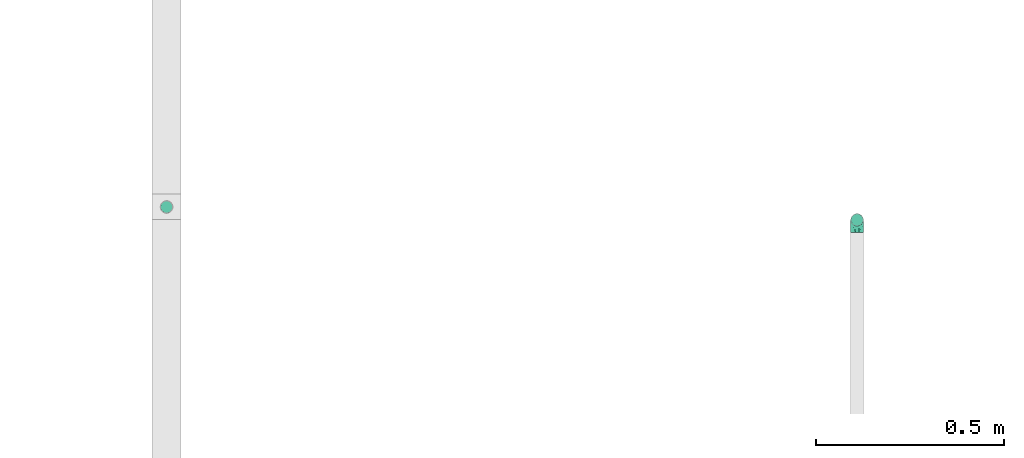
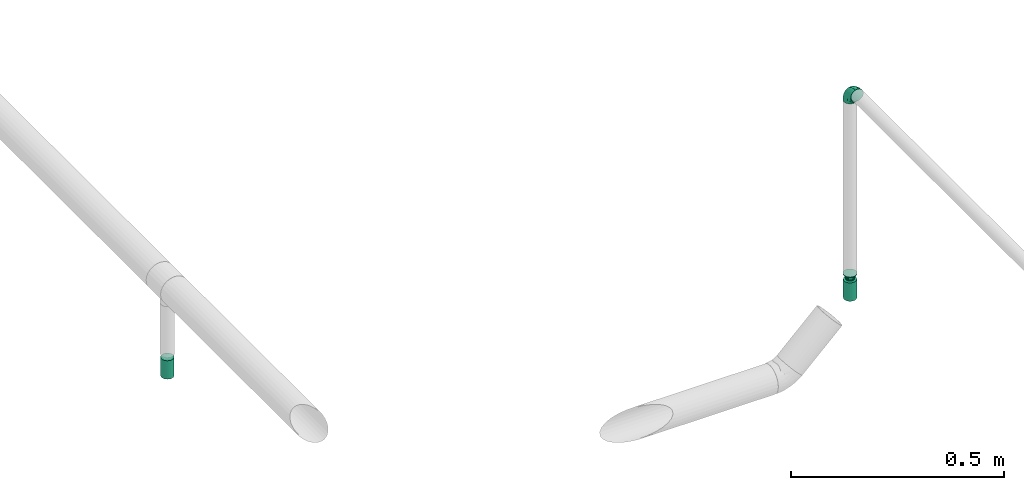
# One storey, part 43 of 95: 2 flow fittings, 2 flow terminals.
"""IFC2X3 building model written with IfcOpenShell, lengths in millimetres."""

from ifc_helpers import new_model, entity, si_unit, converted_unit, derived_unit, direction, frame, origin_with_axes, place, context, subcontext, project, spatial, open_shell, surface_model, source, transform, mapped, type_object, element, save


model = new_model("IFC2X3")

# Units and contexts
model_context = context("Model", 3, precision=0.01, world=frame((0.0, 4.29681676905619e-09, 0.0)), true_north=direction((4.01073788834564e-13, 1.0)))
plan_context = context("Plan", 3, precision=0.01, world=frame((0.0, 4.29681676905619e-09, 0.0)), true_north=direction((4.01073788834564e-13, 1.0)))
body_context = subcontext(model_context, "Body", "Model", "MODEL_VIEW")
ifc_project = project(units=[converted_unit("PLANEANGLEUNIT", "DEGREE", entity("IfcPositiveLengthMeasure", 0.0174532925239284), si_unit("PLANEANGLEUNIT", "RADIAN"), dimensions=[0, 0, 0, 0, 0, 0, 0]), si_unit("AREAUNIT", "SQUARE_METRE"), si_unit("LENGTHUNIT", "METRE", prefix="MILLI"), si_unit("MASSUNIT", "GRAM", prefix="KILO"), si_unit("POWERUNIT", "WATT"), si_unit("PRESSUREUNIT", "PASCAL"), si_unit("FORCEUNIT", "NEWTON", prefix="KILO"), si_unit("ELECTRICVOLTAGEUNIT", "VOLT"), si_unit("ELECTRICCURRENTUNIT", "AMPERE"), si_unit("THERMODYNAMICTEMPERATUREUNIT", "DEGREE_CELSIUS"), si_unit("TIMEUNIT", "SECOND"), si_unit("VOLUMEUNIT", "CUBIC_METRE"), derived_unit("LINEARVELOCITYUNIT", [(si_unit("LENGTHUNIT", "METRE"), 1), (si_unit("TIMEUNIT", "SECOND"), -1)]), derived_unit("VOLUMETRICFLOWRATEUNIT", [(si_unit("VOLUMEUNIT", "CUBIC_METRE"), 1), (si_unit("TIMEUNIT", "SECOND"), -1)]), derived_unit("THERMALTRANSMITTANCEUNIT", [(si_unit("POWERUNIT", "WATT"), 1), (si_unit("THERMODYNAMICTEMPERATUREUNIT", "KELVIN"), -1), (si_unit("AREAUNIT", "SQUARE_METRE"), -1)]), derived_unit("SOUNDPRESSUREUNIT", [(si_unit("PRESSUREUNIT", "PASCAL"), 1)])], contexts=[model_context, plan_context])

# Site, building, storey
site_placement = place(None, frame((0.0, -4.29681676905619e-09, 0.0), z_axis=(0.0, 0.0, 1.0), x_axis=(1.0, 0.0, 0.0)))
site = spatial("IfcSite", under=ifc_project, at=site_placement, CompositionType="ELEMENT")
building_placement = place(site_placement, frame((0.0, 4.29681676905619e-09, 0.0), z_axis=(0.0, 0.0, 1.0), x_axis=(1.0, 0.0, 0.0)))
building = spatial("IfcBuilding", under=site, at=building_placement, Name="mc-building", CompositionType="ELEMENT")
storey_placement = place(building_placement, frame((0.0, 0.0, 210900.0), z_axis=(0.0, 0.0, 1.0), x_axis=(1.0, 0.0, 0.0)))
storey = spatial("IfcBuildingStorey", under=building, at=storey_placement, Name="Nivå F", CompositionType="ELEMENT", Elevation=210900.0)

# Flow fittings
pipe_fitting_type_1 = type_object("IfcPipeFittingType", Name="magi_pipe_fe_reducer_centric_short_NOR", PredefinedType="TRANSITION")
shared_shape_1 = source(origin_with_axes(), body_context, "Body", "SurfaceModel", [
    surface_model("IfcShellBasedSurfaceModel", [(-2.0, -7.56604, -7.56604), (-2.0, -10.33541, -2.76936), (-2.0, -5.35, -9.26647), (-2.0, 5.35, -9.26647), (-2.0, 10.33541, -2.76936), (-2.0, 7.56604, -7.56604), (12.4, 11.9501, 11.9501), (12.4, 0.0, 16.9), (12.4, 11.9501, -11.9501), (12.4, 16.9, 0.0), (0.0, -10.7, 0.0), (0.0, -5.35, 9.26647), (0.0, -5.35, -9.26647), (0.0, 10.7, 0.0), (12.4, 15.66253, -2.98753), (12.4, 8.96258, -13.18758), (0.0, 6.6875, -6.94985), (12.4, -15.66253, -2.98753), (12.4, -16.9, 0.0), (12.4, 5.97505, -14.42505), (0.0, 5.35, -9.26647), (12.4, 14.42505, -5.97505), (0.0, 8.025, -4.63324), (0.0, 9.3625, -2.31662), (0.0, -9.3625, -2.31662), (0.0, -8.025, -4.63324), (12.4, -14.42505, -5.97505), (12.4, 13.18758, -8.96258), (12.4, -13.18758, -8.96258), (12.4, -11.9501, -11.9501), (0.0, -6.6875, -6.94985), (12.4, -8.96258, -13.18758), (12.4, -5.97505, -14.42505), (12.4, -15.66253, 2.98753), (12.4, -8.96258, 13.18758), (0.0, -6.6875, 6.94985), (12.4, -11.9501, 11.9501), (12.4, 15.66253, 2.98753), (12.4, -5.97505, 14.42505), (12.4, -14.42505, 5.97505), (0.0, -8.025, 4.63324), (0.0, -9.3625, 2.31662), (0.0, 9.3625, 2.31662), (0.0, 8.025, 4.63324), (12.4, 14.42505, 5.97505), (12.4, -13.18758, 8.96258), (12.4, 13.18758, 8.96258), (0.0, 6.6875, 6.94985), (12.4, 8.96258, 13.18758), (0.0, 5.35, 9.26647), (12.4, 5.97505, 14.42505), (14.4, 4.37404, -16.32415), (14.4, 8.45, -14.63583), (14.4, 11.9501, -11.9501), (14.4, -8.45, -14.63583), (14.4, 16.32415, -4.37404), (14.4, 16.32415, 4.37404), (14.4, 14.63583, -8.45), (14.4, 0.0, -16.9), (14.4, -4.37404, -16.32415), (14.4, -11.9501, -11.9501), (14.4, -16.32415, -4.37404), (14.4, -14.63583, -8.45), (14.4, -16.32415, 4.37404), (14.4, 16.9, 0.0), (14.4, 14.63583, 8.45), (14.4, 11.9501, 11.9501), (14.4, 4.37404, 16.32415), (14.4, 8.45, 14.63583), (14.4, 0.0, 16.9), (14.4, -14.63583, 8.45), (14.4, -16.9, 0.0), (14.4, -8.45, 14.63583), (14.4, -11.9501, 11.9501), (14.4, -4.37404, 16.32415), (12.4, 4.37404, 16.32415), (12.4, -14.63583, 8.45), (12.4, 16.32415, 4.37404), (12.4, 8.45, 14.63583), (12.4, 14.63583, 8.45), (12.4, -8.45, 14.63583), (12.4, -4.37404, 16.32415), (12.4, -16.32415, 4.37404), (12.4, -16.32415, -4.37404), (12.4, -8.45, -14.63583), (12.4, 16.32415, -4.37404), (12.4, 14.63583, -8.45), (12.4, 8.45, -14.63583), (12.4, 4.37404, -16.32415), (12.4, 0.0, -16.9), (12.4, -14.63583, -8.45), (12.4, -4.37404, -16.32415), (-2.0, 2.76936, 10.33541), (-2.0, 0.0, 10.7), (-2.0, 5.35, 9.26647), (-2.0, 7.56604, 7.56604), (-2.0, 9.26647, 5.35), (-2.0, 10.33541, 2.76936), (-2.0, -10.33541, 2.76936), (-2.0, -2.76936, 10.33541), (-2.0, -7.56604, 7.56604), (-2.0, -5.35, 9.26647), (-2.0, -9.26647, 5.35), (-2.0, -10.7, 0.0), (-2.0, 9.26647, -5.35), (-2.0, 2.76936, -10.33541), (-2.0, -9.26647, -5.35), (-2.0, 0.0, -10.7), (-2.0, -2.76936, -10.33541), (-2.0, 10.7, 0.0), (0.0, 0.0, -10.7), (0.0, 2.76936, -10.33541), (0.0, 10.33541, -2.76936), (0.0, 7.56604, -7.56604), (0.0, -10.33541, -2.76936), (0.0, 9.26647, -5.35), (0.0, 0.0, 10.7), (0.0, -2.76936, -10.33541), (0.0, -7.56604, -7.56604), (0.0, -9.26647, -5.35), (0.0, 10.33541, 2.76936), (0.0, 9.26647, 5.35), (0.0, 7.56604, 7.56604), (0.0, 2.76936, 10.33541), (0.0, -7.56604, 7.56604), (0.0, -10.33541, 2.76936), (0.0, -9.26647, 5.35), (0.0, -2.76936, 10.33541), (0.0, 2.675, -9.26647), (0.0, -2.675, -9.26647), (12.4, 2.98753, -15.66253), (0.0, 0.0, -9.26647), (12.4, -2.98753, -15.66253), (0.0, -2.675, 9.26647), (0.0, 2.675, 9.26647), (12.4, -2.98753, 15.66253), (0.0, 0.0, 9.26647), (12.4, 2.98753, 15.66253)], [open_shell([[[0, 1, 2]], [[3, 4, 5]], [[6, 7, 8]], [[8, 9, 6]], [[10, 11, 12]], [[13, 9, 14]], [[15, 16, 8]], [[17, 18, 10]], [[15, 19, 20]], [[21, 22, 23]], [[24, 25, 26]], [[22, 21, 27]], [[28, 26, 25]], [[29, 30, 31]], [[12, 32, 31]], [[10, 18, 33]], [[34, 35, 36]], [[37, 9, 13]], [[34, 38, 11]], [[39, 40, 41]], [[42, 43, 44]], [[40, 39, 45]], [[46, 44, 43]], [[6, 47, 48]], [[49, 50, 48]], [[51, 52, 53]], [[54, 51, 53]], [[53, 55, 56]], [[55, 53, 57]], [[53, 56, 54]], [[58, 54, 59]], [[58, 51, 54]], [[60, 61, 62]], [[61, 60, 54]], [[54, 63, 61]], [[56, 55, 64]], [[56, 65, 66]], [[56, 66, 67]], [[67, 63, 54]], [[67, 66, 68]], [[63, 67, 69]], [[69, 70, 63]], [[71, 61, 63]], [[70, 72, 73]], [[70, 69, 72]], [[72, 69, 74]], [[54, 56, 67]], [[75, 76, 7]], [[77, 75, 78]], [[6, 79, 77]], [[6, 77, 78]], [[76, 75, 77]], [[80, 76, 36]], [[80, 81, 7]], [[7, 76, 80]], [[82, 76, 77]], [[82, 83, 18]], [[82, 77, 84]], [[77, 85, 8]], [[8, 85, 86]], [[8, 87, 88]], [[84, 77, 8]], [[88, 89, 8]], [[83, 29, 90]], [[29, 83, 84]], [[84, 89, 91]], [[83, 82, 84]], [[8, 89, 84]], [[85, 77, 9]], [[83, 61, 18]], [[90, 62, 83]], [[54, 29, 84]], [[90, 29, 60]], [[59, 84, 91]], [[83, 62, 61]], [[61, 71, 18]], [[59, 54, 84]], [[60, 29, 54]], [[60, 62, 90]], [[58, 59, 91]], [[91, 89, 58]], [[88, 51, 89]], [[87, 52, 88]], [[57, 8, 86]], [[87, 8, 53]], [[55, 86, 85]], [[87, 53, 52]], [[52, 51, 88]], [[64, 55, 85]], [[57, 86, 55]], [[57, 53, 8]], [[9, 64, 85]], [[89, 51, 58]], [[77, 56, 9]], [[79, 65, 77]], [[68, 6, 78]], [[79, 6, 66]], [[67, 78, 75]], [[77, 65, 56]], [[56, 64, 9]], [[67, 68, 78]], [[66, 6, 68]], [[66, 65, 79]], [[69, 67, 75]], [[75, 7, 69]], [[81, 74, 7]], [[80, 72, 81]], [[70, 36, 76]], [[80, 36, 73]], [[63, 76, 82]], [[80, 73, 72]], [[72, 74, 81]], [[71, 63, 82]], [[70, 76, 63]], [[70, 73, 36]], [[18, 71, 82]], [[7, 74, 69]], [[92, 1, 93]], [[94, 1, 92]], [[95, 96, 97]], [[95, 97, 94]], [[98, 93, 1]], [[99, 100, 101]], [[99, 93, 100]], [[100, 98, 102]], [[93, 98, 100]], [[98, 1, 103]], [[94, 97, 1]], [[1, 97, 4]], [[5, 4, 104]], [[4, 3, 1]], [[105, 1, 3]], [[1, 0, 106]], [[2, 107, 108]], [[2, 1, 105]], [[105, 107, 2]], [[4, 97, 109]], [[20, 110, 111]], [[112, 20, 113]], [[114, 20, 112]], [[112, 113, 115]], [[116, 114, 112]], [[110, 12, 117]], [[110, 20, 12]], [[118, 114, 119]], [[114, 118, 12]], [[20, 114, 12]], [[112, 13, 120]], [[120, 121, 122]], [[120, 122, 123]], [[116, 112, 123]], [[123, 122, 49]], [[116, 124, 114]], [[125, 124, 126]], [[10, 114, 125]], [[124, 127, 11]], [[125, 114, 124]], [[127, 124, 116]], [[123, 112, 120]], [[1, 114, 103]], [[106, 119, 1]], [[12, 0, 2]], [[106, 0, 118]], [[117, 2, 108]], [[1, 119, 114]], [[114, 10, 103]], [[117, 12, 2]], [[118, 0, 12]], [[118, 119, 106]], [[110, 117, 108]], [[108, 107, 110]], [[105, 111, 107]], [[3, 20, 105]], [[115, 5, 104]], [[3, 5, 113]], [[112, 104, 4]], [[3, 113, 20]], [[20, 111, 105]], [[13, 112, 4]], [[115, 104, 112]], [[115, 113, 5]], [[109, 13, 4]], [[107, 111, 110]], [[97, 120, 109]], [[96, 121, 97]], [[49, 95, 94]], [[96, 95, 122]], [[123, 94, 92]], [[97, 121, 120]], [[120, 13, 109]], [[123, 49, 94]], [[122, 95, 49]], [[122, 121, 96]], [[116, 123, 92]], [[92, 93, 116]], [[99, 127, 93]], [[101, 11, 99]], [[126, 100, 102]], [[101, 100, 124]], [[125, 102, 98]], [[101, 124, 11]], [[11, 127, 99]], [[10, 125, 98]], [[126, 102, 125]], [[126, 124, 100]], [[103, 10, 98]], [[93, 127, 116]], [[18, 7, 36]], [[18, 29, 8]], [[89, 8, 29]], [[18, 8, 7]], [[13, 11, 49]], [[13, 20, 12]], [[13, 12, 11]], [[24, 26, 17]], [[10, 24, 17]], [[16, 15, 20]], [[30, 12, 31]], [[23, 14, 21]], [[19, 128, 20]], [[27, 8, 16]], [[32, 12, 129]], [[30, 28, 25]], [[130, 131, 128]], [[129, 132, 32]], [[16, 22, 27]], [[13, 14, 23]], [[128, 19, 130]], [[130, 89, 131]], [[131, 132, 129]], [[89, 132, 131]], [[28, 30, 29]], [[42, 44, 37]], [[13, 42, 37]], [[35, 34, 11]], [[47, 49, 48]], [[41, 33, 39]], [[38, 133, 11]], [[45, 36, 35]], [[50, 49, 134]], [[47, 46, 43]], [[135, 136, 133]], [[134, 137, 50]], [[35, 40, 45]], [[10, 33, 41]], [[133, 38, 135]], [[135, 7, 136]], [[136, 137, 134]], [[7, 137, 136]], [[46, 47, 6]]])]),
])
flow_fitting_1_placement = place(storey_placement, frame((522698.68266, 447207.85, 3762.948), z_axis=(-1.0, 0.0, 0.0), x_axis=(0.0, 0.0, 1.0)))
element("IfcFlowFitting", 1, at=flow_fitting_1_placement, inside=storey, type_object=pipe_fitting_type_1, Name="magi_pipe_fe_reducer_centric_short_NOR", context=body_context, shape_type="MappedRepresentation", body=[
    mapped(shared_shape_1, transform((0.0, 0.0, 0.0), scale=1.0)),
])
pipe_fitting_type_2 = type_object("IfcPipeFittingType", Name="magi_pipe_fe_elbow_short_001", PredefinedType="BEND")
shared_shape_2 = source(origin_with_axes(), body_context, "Body", "SurfaceModel", [
    surface_model("IfcShellBasedSurfaceModel", [(-33.8, 8.45, -14.63583), (-33.8, 4.37404, -16.32415), (-33.8, 11.9501, -11.9501), (-33.8, -11.9501, -11.9501), (-33.8, -14.63583, -8.45), (-33.8, -8.45, -14.63583), (-33.8, 0.0, -16.9), (-33.8, -4.37404, -16.32415), (-33.8, -4.37404, 16.32415), (-33.8, 0.0, 16.9), (-33.8, -8.45, 14.63583), (-33.8, 16.32415, -4.37404), (-33.8, 14.63583, -8.45), (-33.8, -16.32415, -4.37404), (-33.8, -16.9, 0.0), (-33.8, -16.32415, 4.37404), (-33.8, 11.9501, 11.9501), (-33.8, 14.63583, 8.45), (-33.8, 16.32415, 4.37404), (-33.8, 4.37404, 16.32415), (-33.8, 8.45, 14.63583), (-33.8, -14.63583, 8.45), (-33.8, -11.9501, 11.9501), (-33.8, 16.9, 0.0), (-11.9501, 33.8, -11.9501), (0.0, 33.8, -16.9), (-4.37404, 33.8, -16.32415), (-8.45, 33.8, -14.63583), (-14.63583, 33.8, -8.45), (-16.32415, 33.8, -4.37404), (14.63583, 33.8, -8.45), (8.45, 33.8, 14.63583), (16.32415, 33.8, -4.37404), (8.45, 33.8, -14.63583), (11.9501, 33.8, -11.9501), (4.37404, 33.8, -16.32415), (16.32415, 33.8, 4.37404), (16.9, 33.8, 0.0), (-11.9501, 33.8, 11.9501), (-16.32415, 33.8, 4.37404), (-14.63583, 33.8, 8.45), (-8.45, 33.8, 14.63583), (-4.37404, 33.8, 16.32415), (11.9501, 33.8, 11.9501), (14.63583, 33.8, 8.45), (0.0, 33.8, 16.9), (4.37404, 33.8, 16.32415), (-16.9, 33.8, 0.0), (-24.79389, -13.12945, 9.48721), (-22.19287, -9.75018, 12.59315), (-24.09897, -14.97035, 0.0), (-14.93934, -10.76256, 8.5297), (-22.46095, -14.75051, 5.27077), (14.75051, 22.46094, 5.27077), (11.9251, 13.23888, 4.33236), (13.04069, 14.39795, 0.0), (7.71387, 13.68847, 11.55891), (9.75018, 22.19287, 12.59315), (4.10169, 13.0571, 14.04018), (-24.84007, -6.39063, 15.2048), (-25.81779, -2.23879, 16.61097), (-23.66549, 2.59054, 16.87119), (-26.50418, 14.06512, 11.08152), (-24.21253, 17.66365, 7.72657), (-29.58514, 15.86957, 7.00283), (-6.17382, -7.5455, 0.0), (-13.23888, -11.9251, 4.33236), (-14.39795, -13.04069, 0.0), (-17.81434, 18.87373, 11.97104), (-6.30846, 29.15138, 15.82987), (-2.31622, 25.28002, 16.85849), (-29.23923, 10.23435, 13.77053), (-1.45439, -2.85688, 7.61475), (-0.28326, 0.34872, 10.09509), (-5.74484, -4.04709, 10.4122), (-4.41137, 11.31918, 16.59407), (-8.39727, 3.10034, 15.7812), (-1.72649, 9.1306, 15.53089), (-17.39909, 24.75344, 7.64977), (-26.19233, 20.0512, 0.0), (-28.14518, 17.29657, 4.25857), (-26.05147, 6.6281, 15.96447), (-5.87354, 16.61944, 16.86968), (-12.51807, 12.51807, 16.48937), (-10.06312, 7.38516, 16.81295), (-3.01882, 3.01882, 13.81718), (-13.0571, -4.10169, 14.04018), (-16.82553, -0.15166, 16.38038), (10.76256, 14.93934, 8.5297), (13.12945, 24.79389, 9.48721), (6.39063, 24.84007, 15.2048), (2.23879, 25.81779, 16.61097), (-13.68847, -7.71387, 11.55891), (14.97035, 24.09897, 0.0), (-7.30894, 22.89991, 16.09489), (-10.67958, 26.17414, 14.008), (-12.78295, 18.26924, 15.06066), (-13.88562, 22.45231, 12.93244), (-18.04944, 15.16501, 14.04434), (-23.11658, 20.08178, 4.02986), (-21.84989, 21.84989, 0.0), (-18.55817, 25.48277, 3.93065), (-13.95142, 26.94732, 11.03289), (-18.57098, 7.23906, 16.59756), (-16.58335, 4.14122, 16.89279), (-17.96666, 11.46709, 15.63151), (-9.84453, 17.54304, 16.18938), (0.15166, 16.82553, 16.38038), (-23.27207, 11.47201, 14.23154), (3.84842, 5.86994, 10.70473), (-8.0212, -7.54413, 7.93275), (1.00345, -2.19508, 4.57414), (5.13203, 3.01004, 5.90201), (5.24161, 1.7543, 2.53265), (8.70457, 7.04947, 3.99182), (-20.0512, 26.19233, 0.0), (8.4852, 8.76699, 7.09296), (-4.55488, -6.72064, 4.90681), (2.05031, -2.05031, 0.0), (7.5455, 6.17382, 0.0), (-26.75399, 2.1369, -16.845), (-14.61995, 24.73803, -11.27736), (-28.45274, -13.45335, -9.81895), (-26.00469, 6.63555, -15.96645), (-23.06726, 20.04573, -4.26202), (-13.80647, -4.26506, -14.17873), (-14.67501, -0.21081, -16.07388), (-6.7902, -0.2828, -13.8478), (-24.53586, 11.08096, -14.13417), (-26.72048, 14.00837, -11.05776), (10.0967, 24.44989, -12.75976), (5.83237, 21.40218, -15.03047), (6.66249, 28.54238, -15.38093), (-20.38182, 15.48705, -12.74596), (12.53268, 21.23441, -9.15363), (12.54494, 15.67504, -5.54878), (9.7522, 12.89279, -8.66343), (-15.65186, 19.64213, -13.01327), (-12.03528, 20.66498, -14.67665), (-15.61907, 15.61906, -14.83879), (-25.56551, -15.26206, 0.0), (-24.65452, -15.12934, -5.50955), (13.45335, 28.45274, -9.81895), (15.12934, 24.65452, -5.50955), (-7.35442, -8.31014, -5.65563), (-15.67504, -12.54494, -5.54878), (-24.44989, -10.0967, -12.75976), (0.16522, 0.41303, -9.71728), (-5.70658, -5.33066, -8.89288), (-5.13869, -2.37198, -11.53565), (-21.23441, -12.53268, -9.15363), (0.71146, 7.93863, -14.09382), (0.21081, 14.67501, -16.07388), (3.49291, 14.42772, -14.76381), (-24.89911, -2.13088, -16.591), (-28.54238, -6.66249, -15.38093), (-18.44386, -7.71663, -13.26957), (2.13088, 24.89911, -16.591), (-28.64342, 17.44413, -2.89318), (1.70017, -1.28722, -5.09504), (-16.57067, 26.81947, -7.36596), (-17.69055, 27.4263, -3.76405), (-12.89279, -9.7522, -8.66343), (-5.96611, 5.96611, -15.95814), (-20.53709, 20.09345, -8.28985), (-2.1369, 26.75399, -16.845), (-6.89872, 24.58781, -16.02578), (-10.60739, 26.53157, -13.98044), (-21.40218, -5.83237, -15.03047), (2.93192, 5.89627, -11.55917), (6.89393, 12.61842, -11.82233), (5.58056, 5.95325, -8.79455), (-3.99512, 18.61798, -16.89635), (8.31014, 7.35442, -5.65563), (-9.1383, 9.86148, -16.89041), (-9.99983, 16.02119, -16.39699), (-16.68576, 9.78031, -16.34199), (-27.01915, 16.61158, -7.12979), (15.26206, 25.56551, 0.0), (-18.61798, 3.99512, -16.89635), (-19.37495, 27.82495, 0.0), (-12.61842, -6.89393, -11.82233), (-18.84705, 19.14018, -10.96545)], [open_shell([[[0, 1, 2]], [[3, 4, 5]], [[6, 7, 5]], [[8, 9, 10]], [[1, 6, 2]], [[11, 12, 2]], [[4, 2, 6]], [[2, 13, 10]], [[5, 4, 6]], [[2, 4, 13]], [[14, 15, 13]], [[11, 2, 16]], [[11, 17, 18]], [[11, 16, 17]], [[19, 20, 16]], [[16, 2, 10]], [[19, 16, 10]], [[21, 22, 15]], [[22, 13, 15]], [[22, 10, 13]], [[10, 9, 19]], [[11, 18, 23]], [[24, 25, 26]], [[24, 26, 27]], [[24, 28, 29]], [[25, 24, 30]], [[31, 32, 24]], [[33, 30, 34]], [[33, 35, 25]], [[25, 30, 33]], [[32, 30, 24]], [[32, 36, 37]], [[38, 24, 29]], [[39, 40, 29]], [[40, 38, 29]], [[38, 41, 42]], [[38, 31, 24]], [[31, 38, 42]], [[36, 43, 44]], [[36, 32, 43]], [[31, 45, 46]], [[32, 31, 43]], [[42, 45, 31]], [[39, 29, 47]], [[22, 48, 49]], [[15, 14, 50]], [[51, 48, 52]], [[53, 54, 55]], [[48, 22, 21]], [[15, 52, 21]], [[56, 57, 58]], [[49, 10, 22]], [[49, 59, 10]], [[9, 60, 61]], [[62, 63, 64]], [[65, 66, 67]], [[57, 43, 31]], [[62, 68, 63]], [[42, 69, 70]], [[20, 71, 16]], [[8, 60, 9]], [[72, 73, 74]], [[75, 76, 77]], [[16, 62, 17]], [[40, 39, 78]], [[79, 23, 80]], [[64, 18, 17]], [[9, 61, 19]], [[19, 81, 20]], [[82, 83, 84]], [[74, 85, 86]], [[59, 86, 87]], [[88, 89, 57]], [[90, 31, 46]], [[44, 53, 36]], [[46, 45, 91]], [[54, 53, 88]], [[44, 89, 53]], [[92, 86, 49]], [[89, 44, 43]], [[10, 59, 8]], [[53, 55, 93]], [[93, 36, 53]], [[66, 52, 67]], [[94, 82, 70]], [[95, 96, 94]], [[97, 98, 96]], [[79, 99, 100]], [[41, 38, 95]], [[101, 100, 99]], [[68, 78, 63]], [[42, 41, 69]], [[23, 18, 80]], [[95, 94, 69]], [[78, 101, 99]], [[38, 102, 95]], [[70, 45, 42]], [[97, 95, 102]], [[15, 50, 52]], [[90, 57, 31]], [[57, 90, 58]], [[81, 19, 61]], [[103, 104, 84]], [[105, 81, 103]], [[38, 40, 102]], [[106, 96, 83]], [[94, 106, 82]], [[91, 70, 107]], [[71, 62, 16]], [[62, 108, 98]], [[86, 59, 49]], [[67, 52, 50]], [[60, 59, 87]], [[92, 49, 51]], [[86, 85, 76]], [[91, 90, 46]], [[37, 36, 93]], [[107, 77, 58]], [[107, 58, 90]], [[58, 85, 109]], [[110, 74, 92]], [[72, 74, 110]], [[66, 51, 52]], [[72, 111, 112]], [[113, 114, 112]], [[56, 88, 57]], [[52, 48, 21]], [[49, 48, 51]], [[57, 89, 43]], [[53, 89, 88]], [[103, 81, 61]], [[71, 81, 108]], [[18, 64, 80]], [[63, 78, 99]], [[47, 115, 101]], [[101, 115, 100]], [[40, 78, 102]], [[68, 102, 78]], [[97, 96, 95]], [[105, 98, 108]], [[103, 84, 83]], [[107, 70, 82]], [[76, 84, 87]], [[82, 84, 75]], [[70, 91, 45]], [[90, 91, 107]], [[59, 60, 8]], [[61, 60, 87]], [[73, 85, 74]], [[109, 112, 116]], [[103, 61, 104]], [[105, 103, 83]], [[96, 105, 83]], [[81, 105, 108]], [[96, 98, 105]], [[62, 98, 68]], [[61, 87, 104]], [[87, 84, 104]], [[86, 76, 87]], [[77, 76, 85]], [[58, 77, 85]], [[75, 77, 107]], [[82, 75, 107]], [[76, 75, 84]], [[81, 71, 20]], [[62, 71, 108]], [[95, 69, 41]], [[70, 69, 94]], [[62, 64, 17]], [[80, 63, 99]], [[63, 80, 64]], [[80, 99, 79]], [[66, 65, 117]], [[110, 66, 117]], [[112, 114, 116]], [[118, 117, 65]], [[110, 92, 51]], [[112, 111, 113]], [[119, 55, 54]], [[74, 86, 92]], [[58, 109, 56]], [[116, 56, 109]], [[66, 110, 51]], [[72, 110, 117]], [[111, 72, 117]], [[73, 112, 109]], [[117, 118, 111]], [[113, 111, 118]], [[118, 119, 113]], [[114, 119, 54]], [[119, 114, 113]], [[116, 54, 88]], [[54, 116, 114]], [[116, 88, 56]], [[112, 73, 72]], [[85, 73, 109]], [[78, 39, 101]], [[47, 101, 39]], [[102, 68, 97]], [[97, 68, 98]], [[82, 106, 83]], [[94, 96, 106]], [[1, 120, 6]], [[28, 24, 121]], [[3, 122, 4]], [[0, 123, 1]], [[100, 124, 79]], [[125, 126, 127]], [[128, 2, 129]], [[130, 131, 132]], [[128, 129, 133]], [[134, 135, 136]], [[137, 138, 139]], [[128, 0, 2]], [[67, 140, 141]], [[134, 142, 143]], [[141, 13, 4]], [[144, 65, 145]], [[146, 3, 5]], [[147, 148, 149]], [[145, 141, 150]], [[151, 152, 153]], [[154, 7, 6]], [[5, 155, 146]], [[150, 146, 156]], [[155, 5, 7]], [[143, 135, 134]], [[35, 157, 25]], [[23, 79, 158]], [[148, 159, 144]], [[160, 161, 29]], [[145, 162, 144]], [[163, 152, 151]], [[29, 28, 160]], [[121, 164, 160]], [[33, 34, 130]], [[25, 165, 26]], [[26, 165, 166]], [[142, 34, 30]], [[24, 27, 167]], [[124, 161, 164]], [[157, 35, 132]], [[155, 154, 168]], [[123, 0, 128]], [[169, 170, 171]], [[172, 157, 152]], [[26, 166, 27]], [[132, 35, 33]], [[142, 130, 34]], [[168, 154, 126]], [[136, 135, 173]], [[133, 137, 139]], [[2, 12, 129]], [[170, 131, 130]], [[30, 32, 143]], [[172, 174, 175]], [[176, 123, 128]], [[158, 177, 11]], [[135, 55, 119]], [[167, 27, 166]], [[175, 166, 172]], [[137, 167, 138]], [[122, 141, 4]], [[140, 14, 13]], [[32, 37, 178]], [[170, 130, 134]], [[152, 157, 131]], [[165, 157, 172]], [[153, 170, 151]], [[152, 163, 174]], [[168, 125, 156]], [[122, 146, 150]], [[120, 154, 6]], [[179, 174, 126]], [[179, 126, 154]], [[126, 163, 127]], [[162, 145, 150]], [[140, 13, 141]], [[32, 178, 143]], [[55, 143, 178]], [[177, 129, 12]], [[128, 133, 139]], [[176, 128, 139]], [[120, 123, 179]], [[121, 160, 28]], [[161, 100, 180]], [[166, 175, 138]], [[121, 24, 167]], [[161, 47, 29]], [[79, 124, 158]], [[124, 164, 177]], [[161, 124, 100]], [[136, 171, 170]], [[127, 163, 151]], [[147, 171, 159]], [[148, 144, 162]], [[127, 151, 169]], [[127, 181, 125]], [[129, 177, 164]], [[12, 11, 177]], [[159, 65, 144]], [[67, 141, 145]], [[143, 55, 135]], [[135, 119, 173]], [[123, 120, 1]], [[154, 120, 179]], [[157, 165, 25]], [[166, 165, 172]], [[172, 152, 174]], [[176, 139, 175]], [[126, 174, 163]], [[176, 174, 179]], [[174, 176, 175]], [[123, 176, 179]], [[150, 181, 162]], [[127, 149, 181]], [[181, 148, 162]], [[159, 148, 147]], [[171, 136, 173]], [[170, 134, 136]], [[159, 171, 173]], [[171, 147, 169]], [[169, 147, 149]], [[151, 170, 169]], [[164, 182, 129]], [[182, 121, 137]], [[181, 149, 148]], [[169, 149, 127]], [[182, 137, 133]], [[167, 137, 121]], [[166, 138, 167]], [[175, 139, 138]], [[129, 182, 133]], [[121, 182, 164]], [[161, 160, 164]], [[47, 161, 180]], [[177, 158, 124]], [[23, 158, 11]], [[130, 132, 33]], [[157, 132, 131]], [[143, 142, 30]], [[130, 142, 134]], [[154, 155, 7]], [[146, 155, 168]], [[146, 122, 3]], [[141, 122, 150]], [[152, 131, 153]], [[159, 119, 118]], [[67, 145, 65]], [[170, 153, 131]], [[119, 159, 173]], [[159, 118, 65]], [[156, 125, 181]], [[126, 125, 168]], [[150, 156, 181]], [[168, 156, 146]]])]),
])
flow_fitting_2_placement = place(storey_placement, frame((522698.68266, 447207.85, 4308.26618000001), z_axis=(1.0, 0.0, 0.0), x_axis=(0.0, 0.0, 1.0)))
element("IfcFlowFitting", 2, at=flow_fitting_2_placement, inside=storey, type_object=pipe_fitting_type_2, Name="magi_pipe_fe_elbow_short_001", context=body_context, shape_type="MappedRepresentation", body=[
    mapped(shared_shape_2, transform((0.0, 0.0, 0.0), scale=1.0)),
])

# Flow terminals
fire_suppression_terminal_type_1 = type_object("IfcFireSuppressionTerminalType", Name="SP-15-K80-68DGR-STD-HIMLING", PredefinedType="NOTDEFINED")
shared_shape_3 = source(origin_with_axes(), body_context, "Body", "SurfaceModel", [
    surface_model("IfcShellBasedSurfaceModel", [(15.45481, -4.1411, 53.0), (13.85641, -8.0, 53.0), (15.45481, -4.1411, 0.0), (16.0, 0.0, 0.0), (16.0, 0.0, 53.0), (15.45481, 4.1411, 0.0), (13.85641, 8.0, 53.0), (15.45481, 4.1411, 53.0), (11.31371, 11.31371, 53.0), (8.0, 13.85641, 53.0), (4.1411, 15.45481, 53.0), (-8.0, 13.85641, 53.0), (-4.1411, 15.45481, 53.0), (0.0, 16.0, 53.0), (-11.31371, 11.31371, 53.0), (-13.85641, 8.0, 53.0), (-15.45481, 4.1411, 53.0), (11.31371, -11.31371, 53.0), (-16.0, 0.0, 53.0), (0.0, -16.0, 53.0), (4.1411, -15.45481, 53.0), (8.0, -13.85641, 53.0), (-13.85641, -8.0, 53.0), (-11.31371, -11.31371, 53.0), (-15.45481, -4.1411, 53.0), (-8.0, -13.85641, 53.0), (-4.1411, -15.45481, 53.0), (8.0, -13.85641, 0.0), (4.1411, -15.45481, 0.0), (0.0, -16.0, 0.0), (-4.1411, -15.45481, 0.0), (13.85641, -8.0, 0.0), (11.31371, -11.31371, 0.0), (-16.0, 0.0, 0.0), (-8.0, -13.85641, 0.0), (-11.31371, -11.31371, 0.0), (-13.85641, -8.0, 0.0), (-15.45481, -4.1411, 0.0), (4.1411, 15.45481, 0.0), (13.85641, 8.0, 0.0), (8.0, 13.85641, 0.0), (11.31371, 11.31371, 0.0), (-15.45481, 4.1411, 0.0), (-11.31371, 11.31371, 0.0), (-8.0, 13.85641, 0.0), (-13.85641, 8.0, 0.0), (-4.1411, 15.45481, 0.0), (0.0, 16.0, 0.0)], [open_shell([[[0, 1, 2]], [[3, 4, 0]], [[5, 6, 7]], [[7, 4, 3]], [[8, 9, 10]], [[8, 10, 11]], [[8, 4, 7]], [[6, 8, 7]], [[4, 8, 11]], [[12, 11, 13]], [[11, 10, 13]], [[14, 15, 11]], [[16, 11, 15]], [[11, 16, 4]], [[16, 0, 4]], [[17, 1, 0]], [[18, 17, 16]], [[19, 20, 21]], [[18, 21, 17]], [[21, 18, 19]], [[22, 23, 24]], [[18, 24, 23]], [[25, 26, 23]], [[18, 23, 26]], [[26, 19, 18]], [[0, 16, 17]], [[27, 28, 29]], [[27, 29, 30]], [[2, 31, 32]], [[32, 27, 33]], [[2, 32, 33]], [[34, 35, 30]], [[36, 30, 35]], [[36, 37, 30]], [[37, 27, 30]], [[37, 33, 27]], [[33, 5, 2]], [[38, 5, 33]], [[39, 5, 38]], [[38, 40, 41]], [[39, 38, 41]], [[33, 42, 38]], [[43, 44, 45]], [[42, 45, 44]], [[46, 47, 44]], [[38, 42, 44]], [[44, 47, 38]], [[5, 3, 2]], [[45, 42, 16]], [[45, 15, 43]], [[46, 44, 11]], [[14, 44, 43]], [[47, 46, 12]], [[33, 18, 42]], [[18, 16, 42]], [[16, 15, 45]], [[15, 14, 43]], [[44, 14, 11]], [[11, 12, 46]], [[12, 13, 47]], [[40, 38, 10]], [[40, 9, 41]], [[5, 39, 6]], [[8, 39, 41]], [[3, 5, 7]], [[13, 10, 38]], [[10, 9, 40]], [[9, 8, 41]], [[8, 6, 39]], [[47, 13, 38]], [[2, 3, 0]], [[31, 2, 1]], [[28, 27, 21]], [[29, 28, 20]], [[1, 17, 32]], [[17, 27, 32]], [[21, 27, 17]], [[21, 20, 28]], [[31, 1, 32]], [[20, 19, 29]], [[34, 30, 26]], [[34, 25, 35]], [[37, 36, 22]], [[23, 36, 35]], [[33, 37, 24]], [[19, 26, 30]], [[26, 25, 34]], [[25, 23, 35]], [[23, 22, 36]], [[37, 22, 24]], [[24, 18, 33]], [[29, 19, 30]]])]),
])
flow_terminal_1_placement = place(storey_placement, frame((520864.96897, 447242.4, 4157.29999999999), z_axis=(0.0, 0.0, -1.0), x_axis=(1.0, 0.0, 0.0)))
element("IfcFlowTerminal", 3, at=flow_terminal_1_placement, inside=storey, type_object=fire_suppression_terminal_type_1, Name="SP-15-K80-68DGR-STD-HIMLING", context=body_context, shape_type="MappedRepresentation", body=[
    mapped(shared_shape_3, transform((0.0, 0.0, 0.0), scale=1.0)),
])
fire_suppression_terminal_type_2 = type_object("IfcFireSuppressionTerminalType", Name="SP-15-K80-68DGR-STD", PredefinedType="NOTDEFINED")
flow_terminal_2_placement = place(storey_placement, frame((522698.68266, 447207.85, 3759.89999999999), z_axis=(0.0, 0.0, -1.0), x_axis=(1.0, 0.0, 0.0)))
element("IfcFlowTerminal", 4, at=flow_terminal_2_placement, inside=storey, type_object=fire_suppression_terminal_type_2, Name="SP-15-K80-68DGR-STD", context=body_context, shape_type="MappedRepresentation", body=[
    mapped(shared_shape_3, transform((0.0, 0.0, 0.0), scale=1.0)),
])

save(model, "model.ifc")
